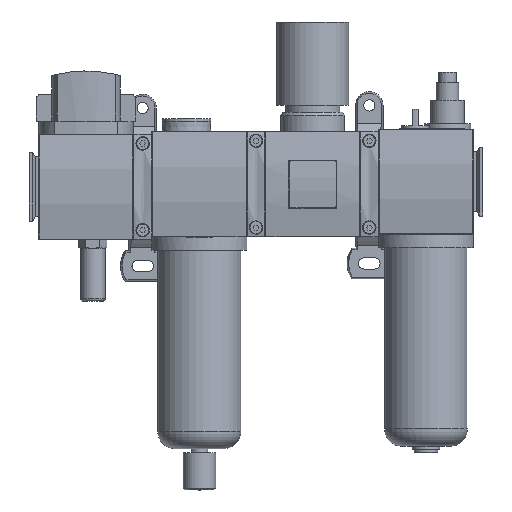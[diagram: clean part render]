
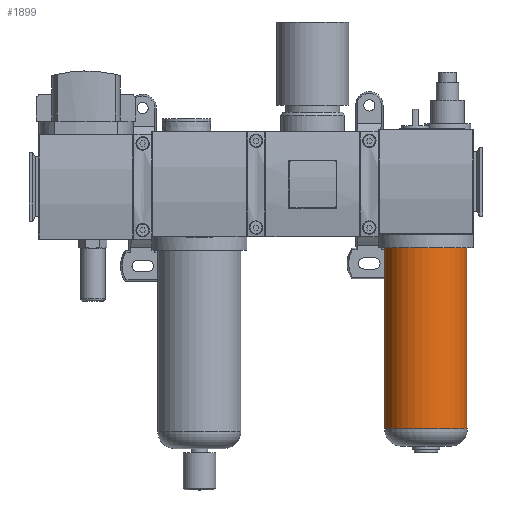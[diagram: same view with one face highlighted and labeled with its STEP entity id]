
A CAD part, top view. The second image highlights one B-rep face of the part: STEP entity #1899.
In plain terms, the highlighted cylindrical face has radius 24.25 mm (diameter 48.5 mm), a full revolution.
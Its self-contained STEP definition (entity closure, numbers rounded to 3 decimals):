
#1899 = ADVANCED_FACE( '', ( #4153, #4154 ), #4155, .T. );
#4153 = FACE_OUTER_BOUND( '', #7015, .T. );
#4154 = FACE_OUTER_BOUND( '', #7016, .T. );
#4155 = CYLINDRICAL_SURFACE( '', #7017, 24.25 );
#7015 = EDGE_LOOP( '', ( #11441 ) );
#7016 = EDGE_LOOP( '', ( #11442 ) );
#7017 = AXIS2_PLACEMENT_3D( '', #11443, #11444, #11445 );
#11441 = ORIENTED_EDGE( '', *, *, #17747, .F. );
#11442 = ORIENTED_EDGE( '', *, *, #17748, .T. );
#11443 = CARTESIAN_POINT( '', ( 0., -115.5, 0. ) );
#11444 = DIRECTION( '', ( 0., 1., 0. ) );
#11445 = DIRECTION( '', ( 0., 0., -1. ) );
#17747 = EDGE_CURVE( '', #21546, #21546, #21547, .T. );
#17748 = EDGE_CURVE( '', #21548, #21548, #21549, .T. );
#21546 = VERTEX_POINT( '', #26841 );
#21547 = CIRCLE( '', #26842, 24.25 );
#21548 = VERTEX_POINT( '', #26843 );
#21549 = CIRCLE( '', #26844, 24.25 );
#26841 = CARTESIAN_POINT( '', ( 0., -105.5, -24.25 ) );
#26842 = AXIS2_PLACEMENT_3D( '', #31181, #31182, #31183 );
#26843 = CARTESIAN_POINT( '', ( 0., 0., -24.25 ) );
#26844 = AXIS2_PLACEMENT_3D( '', #31184, #31185, #31186 );
#31181 = CARTESIAN_POINT( '', ( 0., -105.5, 0. ) );
#31182 = DIRECTION( '', ( 0., -1., 0. ) );
#31183 = DIRECTION( '', ( 0., 0., -1. ) );
#31184 = CARTESIAN_POINT( '', ( 0., 0., 0. ) );
#31185 = DIRECTION( '', ( 0., -1., 0. ) );
#31186 = DIRECTION( '', ( 0., 0., -1. ) );
